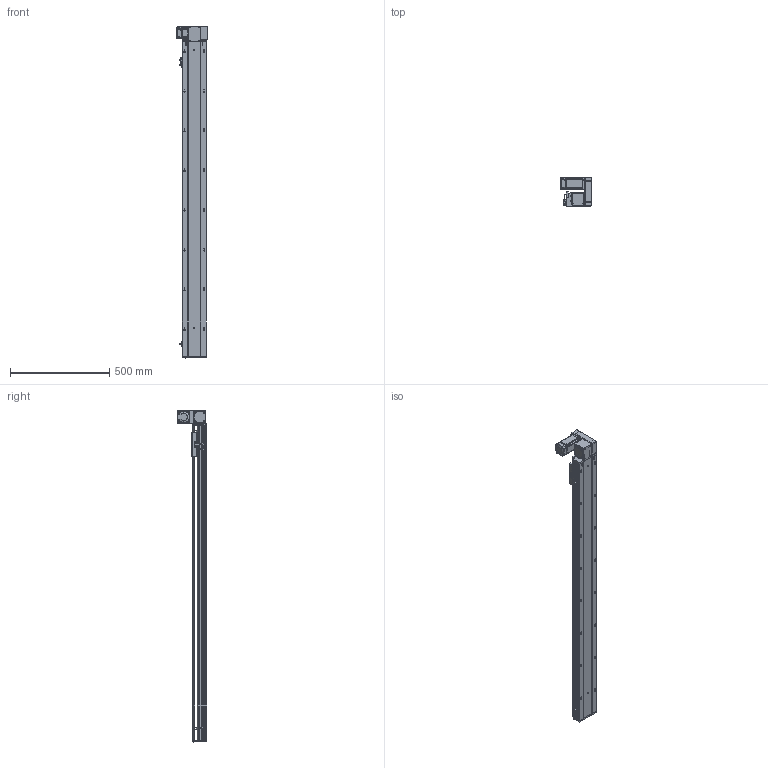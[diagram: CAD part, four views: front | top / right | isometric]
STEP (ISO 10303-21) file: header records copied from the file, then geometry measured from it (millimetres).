
FILE_DESCRIPTION (( 'STEP AP203' ), '1' );
FILE_NAME ('RY120-T-300-UR.SLDASM_1350.step', '2021-03-01T05:57:14', ( '盈信电脑' ), ( '东莞市道滘镇水果街19号' ), 'SwSTEP 2.0', 'SolidWorks 2012', '' );
FILE_SCHEMA (( 'CONFIG_CONTROL_DESIGN' ));
Length unit declared in the file: millimetre
Products named in the file (17): RY120-T萇儂欶; RY120-T主同步轮轴承压盖; RY120-T-300-UR.SLDASM_1350; RY120-T翋肮祭謫裔啣; 15; RY120-T蹟翐M4; RY120-T萇儂假蚾啣; RY120-T翋肮祭盓傅釱; 滅袉蝶18-10; RY120-T肮祭湍揤踡輸2; 覜茼ん672; RY120-T肮祭湍揤踡輸1; RY120外置感应片(140共用）; RY120-T-300-UR倰第奻裔啣_1350; RY120-T-300-UR倰第菁釱_1350; RY120綴裔啣; RY120肮祭湍臏賑輸
Assembly tree (22 placements, depth 2):
  RY120-T-300-UR.SLDASM_1350
    RY120-T-300-UR倰第菁釱_1350
    RY120-T-300-UR倰第奻裔啣_1350
    RY120肮祭湍臏賑輸
    RY120綴裔啣
    覜茼ん672  x3
    RY120外置感应片(140共用）
    RY120-T肮祭湍揤踡輸1
    RY120-T肮祭湍揤踡輸2
    RY120-T翋肮祭盓傅釱
    RY120-T萇儂假蚾啣
    滅袉蝶18-10  x2
    RY120-T翋肮祭謫裔啣
    15
    RY120-T蹟翐M4  x4
    RY120-T萇儂欶
    RY120-T主同步轮轴承压盖
Bounding box: 155.5 x 146 x 1671 mm (x, y, z)
Volume: 4384286.2 mm3; surface area: 1654043.8 mm2
Topology: 23 solids, 23 shells, 2902 faces, 7912 edges, 5058 vertices
Faces by surface type: plane 1422, cylinder 1116, cone 275, bspline 89
Entity records: 92403 total; most frequent: CARTESIAN_POINT 23588, ORIENTED_EDGE 14200, DIRECTION 13454, EDGE_CURVE 7100, VERTEX_POINT 4645, AXIS2_PLACEMENT_3D 4527, VECTOR 4400, LINE 4400
